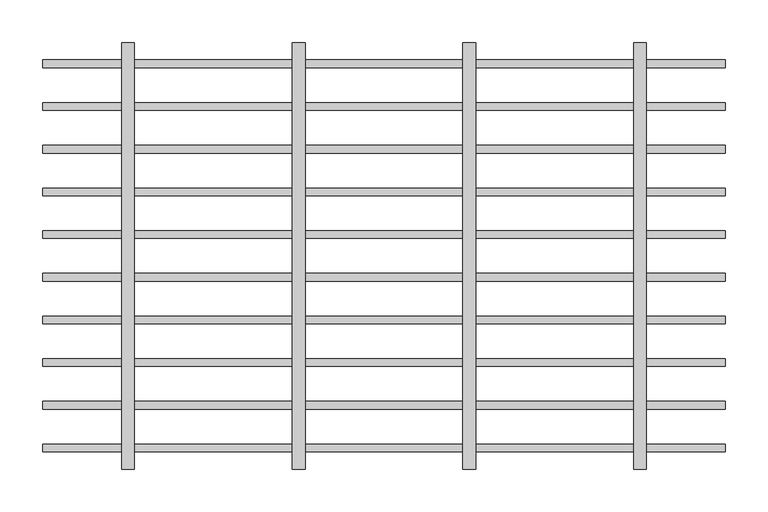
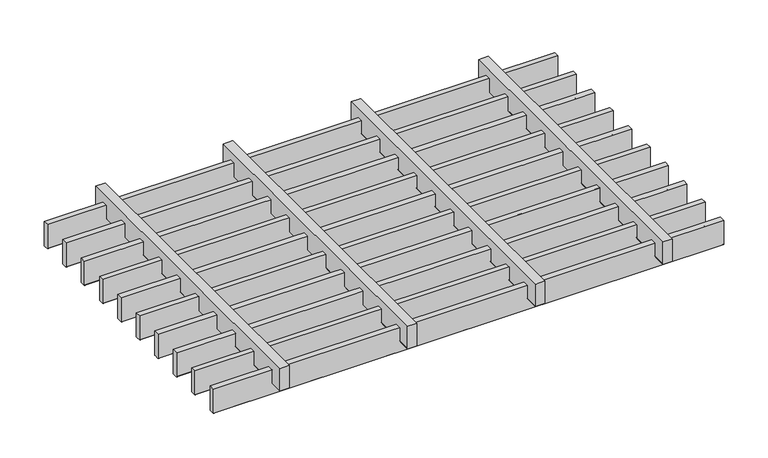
"""IFC4 building model written with IfcOpenShell, lengths in millimetres: proxy geometry, durlum_STARLAM_panel : durlum_STARLAM_9_corner_cut."""

from ifc_helpers import new_model, si_unit, point, frame, frame_2d, origin, place, context, project, spatial, polyline, circle_curve, trimmed, segment, composite_curve, outline, extrude, source, transform, mapped, element, save


def generic_models_8942baac(model_context):
    return source(origin(), model_context, "Body", "SweptSolid", [
        extrude(outline(composite_curve([segment(polyline([(-179.5, 40.0), (-170.5, 40.0), (-170.5, 0.5)]), True, "CONTINUOUS"), segment(trimmed(circle_curve(frame_2d((-171.0, 0.5)), 0.5), [point((-170.5, 0.5))], [point((-171.0, 0.0))], False, "CARTESIAN"), True, "CONTINUOUS"), segment(polyline([(-171.0, 0.0), (-179.0, 0.0)]), True, "CONTINUOUS"), segment(trimmed(circle_curve(frame_2d((-179.0, 0.5)), 0.5), [point((-179.0, 0.0))], [point((-179.5, 0.5))], False, "CARTESIAN"), True, "CONTINUOUS"), segment(polyline([(-179.5, 0.5), (-179.5, 40.0)]), True, "CONTINUOUS")], self_intersect=False)), frame((-399.875, 0.0, 0.0), z_axis=(1.0, 0.0, 0.0), x_axis=(0.0, 1.0, 0.0)), (0.0, 0.0, 1.0), 799.75),
        extrude(outline(composite_curve([segment(polyline([(-129.5, 40.0), (-120.5, 40.0), (-120.5, 0.5)]), True, "CONTINUOUS"), segment(trimmed(circle_curve(frame_2d((-121.0, 0.5)), 0.5), [point((-120.5, 0.5))], [point((-121.0, 0.0))], False, "CARTESIAN"), True, "CONTINUOUS"), segment(polyline([(-121.0, 0.0), (-129.0, 0.0)]), True, "CONTINUOUS"), segment(trimmed(circle_curve(frame_2d((-129.0, 0.5)), 0.5), [point((-129.0, 0.0))], [point((-129.5, 0.5))], False, "CARTESIAN"), True, "CONTINUOUS"), segment(polyline([(-129.5, 0.5), (-129.5, 40.0)]), True, "CONTINUOUS")], self_intersect=False)), frame((-399.875, 0.0, 0.0), z_axis=(1.0, 0.0, 0.0), x_axis=(0.0, 1.0, 0.0)), (0.0, 0.0, 1.0), 799.75),
        extrude(outline(composite_curve([segment(polyline([(54.0, 107.5), (54.0, 92.5), (17.5, 92.5)]), True, "CONTINUOUS"), segment(trimmed(circle_curve(frame_2d((17.5, 93.0)), 0.5), [point((17.5, 92.5))], [point((17.0, 93.0))], False, "CARTESIAN"), True, "CONTINUOUS"), segment(polyline([(17.0, 93.0), (17.0, 107.0)]), True, "CONTINUOUS"), segment(trimmed(circle_curve(frame_2d((17.5, 107.0)), 0.5), [point((17.0, 107.0))], [point((17.5, 107.5))], False, "CARTESIAN"), True, "CONTINUOUS"), segment(polyline([(17.5, 107.5), (54.0, 107.5)]), True, "CONTINUOUS")], self_intersect=False)), frame((0.0, -249.75, 0.0), z_axis=(0.0, 1.0, 0.0), x_axis=(0.0, 0.0, 1.0)), (0.0, 0.0, 1.0), 499.5),
        extrude(outline(composite_curve([segment(polyline([(54.0, -92.5), (54.0, -107.5), (17.5, -107.5)]), True, "CONTINUOUS"), segment(trimmed(circle_curve(frame_2d((17.5, -107.0)), 0.5), [point((17.5, -107.5))], [point((17.0, -107.0))], False, "CARTESIAN"), True, "CONTINUOUS"), segment(polyline([(17.0, -107.0), (17.0, -93.0)]), True, "CONTINUOUS"), segment(trimmed(circle_curve(frame_2d((17.5, -93.0)), 0.5), [point((17.0, -93.0))], [point((17.5, -92.5))], False, "CARTESIAN"), True, "CONTINUOUS"), segment(polyline([(17.5, -92.5), (54.0, -92.5)]), True, "CONTINUOUS")], self_intersect=False)), frame((0.0, -249.75, 0.0), z_axis=(0.0, 1.0, 0.0), x_axis=(0.0, 0.0, 1.0)), (0.0, 0.0, 1.0), 499.5),
        extrude(outline(composite_curve([segment(polyline([(-79.5, 40.0), (-70.5, 40.0), (-70.5, 0.5)]), True, "CONTINUOUS"), segment(trimmed(circle_curve(frame_2d((-71.0, 0.5)), 0.5), [point((-70.5, 0.5))], [point((-71.0, 0.0))], False, "CARTESIAN"), True, "CONTINUOUS"), segment(polyline([(-71.0, 0.0), (-79.0, 0.0)]), True, "CONTINUOUS"), segment(trimmed(circle_curve(frame_2d((-79.0, 0.5)), 0.5), [point((-79.0, 0.0))], [point((-79.5, 0.5))], False, "CARTESIAN"), True, "CONTINUOUS"), segment(polyline([(-79.5, 0.5), (-79.5, 40.0)]), True, "CONTINUOUS")], self_intersect=False)), frame((-399.875, 0.0, 0.0), z_axis=(1.0, 0.0, 0.0), x_axis=(0.0, 1.0, 0.0)), (0.0, 0.0, 1.0), 799.75),
        extrude(outline(composite_curve([segment(polyline([(-29.5, 40.0), (-20.5, 40.0), (-20.5, 0.5)]), True, "CONTINUOUS"), segment(trimmed(circle_curve(frame_2d((-21.0, 0.5)), 0.5), [point((-20.5, 0.5))], [point((-21.0, 0.0))], False, "CARTESIAN"), True, "CONTINUOUS"), segment(polyline([(-21.0, 0.0), (-29.0, 0.0)]), True, "CONTINUOUS"), segment(trimmed(circle_curve(frame_2d((-29.0, 0.5)), 0.5), [point((-29.0, 0.0))], [point((-29.5, 0.5))], False, "CARTESIAN"), True, "CONTINUOUS"), segment(polyline([(-29.5, 0.5), (-29.5, 40.0)]), True, "CONTINUOUS")], self_intersect=False)), frame((-399.875, 0.0, 0.0), z_axis=(1.0, 0.0, 0.0), x_axis=(0.0, 1.0, 0.0)), (0.0, 0.0, 1.0), 799.75),
        extrude(outline(composite_curve([segment(polyline([(20.5, 40.0), (29.5, 40.0), (29.5, 0.5)]), True, "CONTINUOUS"), segment(trimmed(circle_curve(frame_2d((29.0, 0.5)), 0.5), [point((29.5, 0.5))], [point((29.0, 0.0))], False, "CARTESIAN"), True, "CONTINUOUS"), segment(polyline([(29.0, 0.0), (21.0, 0.0)]), True, "CONTINUOUS"), segment(trimmed(circle_curve(frame_2d((21.0, 0.5)), 0.5), [point((21.0, 0.0))], [point((20.5, 0.5))], False, "CARTESIAN"), True, "CONTINUOUS"), segment(polyline([(20.5, 0.5), (20.5, 40.0)]), True, "CONTINUOUS")], self_intersect=False)), frame((-399.875, 0.0, 0.0), z_axis=(1.0, 0.0, 0.0), x_axis=(0.0, 1.0, 0.0)), (0.0, 0.0, 1.0), 799.75),
        extrude(outline(composite_curve([segment(polyline([(70.5, 40.0), (79.5, 40.0), (79.5, 0.5)]), True, "CONTINUOUS"), segment(trimmed(circle_curve(frame_2d((79.0, 0.5)), 0.5), [point((79.5, 0.5))], [point((79.0, 0.0))], False, "CARTESIAN"), True, "CONTINUOUS"), segment(polyline([(79.0, 0.0), (71.0, 0.0)]), True, "CONTINUOUS"), segment(trimmed(circle_curve(frame_2d((71.0, 0.5)), 0.5), [point((71.0, 0.0))], [point((70.5, 0.5))], False, "CARTESIAN"), True, "CONTINUOUS"), segment(polyline([(70.5, 0.5), (70.5, 40.0)]), True, "CONTINUOUS")], self_intersect=False)), frame((-399.875, 0.0, 0.0), z_axis=(1.0, 0.0, 0.0), x_axis=(0.0, 1.0, 0.0)), (0.0, 0.0, 1.0), 799.75),
        extrude(outline(composite_curve([segment(polyline([(120.5, 40.0), (129.5, 40.0), (129.5, 0.5)]), True, "CONTINUOUS"), segment(trimmed(circle_curve(frame_2d((129.0, 0.5)), 0.5), [point((129.5, 0.5))], [point((129.0, 0.0))], False, "CARTESIAN"), True, "CONTINUOUS"), segment(polyline([(129.0, 0.0), (121.0, 0.0)]), True, "CONTINUOUS"), segment(trimmed(circle_curve(frame_2d((121.0, 0.5)), 0.5), [point((121.0, 0.0))], [point((120.5, 0.5))], False, "CARTESIAN"), True, "CONTINUOUS"), segment(polyline([(120.5, 0.5), (120.5, 40.0)]), True, "CONTINUOUS")], self_intersect=False)), frame((-399.875, 0.0, 0.0), z_axis=(1.0, 0.0, 0.0), x_axis=(0.0, 1.0, 0.0)), (0.0, 0.0, 1.0), 799.75),
        extrude(outline(composite_curve([segment(polyline([(170.5, 40.0), (179.5, 40.0), (179.5, 0.5)]), True, "CONTINUOUS"), segment(trimmed(circle_curve(frame_2d((179.0, 0.5)), 0.5), [point((179.5, 0.5))], [point((179.0, 0.0))], False, "CARTESIAN"), True, "CONTINUOUS"), segment(polyline([(179.0, 0.0), (171.0, 0.0)]), True, "CONTINUOUS"), segment(trimmed(circle_curve(frame_2d((171.0, 0.5)), 0.5), [point((171.0, 0.0))], [point((170.5, 0.5))], False, "CARTESIAN"), True, "CONTINUOUS"), segment(polyline([(170.5, 0.5), (170.5, 40.0)]), True, "CONTINUOUS")], self_intersect=False)), frame((-399.875, 0.0, 0.0), z_axis=(1.0, 0.0, 0.0), x_axis=(0.0, 1.0, 0.0)), (0.0, 0.0, 1.0), 799.75),
        extrude(outline(composite_curve([segment(polyline([(54.0, 307.5), (54.0, 292.5), (17.5, 292.5)]), True, "CONTINUOUS"), segment(trimmed(circle_curve(frame_2d((17.5, 293.0)), 0.5), [point((17.5, 292.5))], [point((17.0, 293.0))], False, "CARTESIAN"), True, "CONTINUOUS"), segment(polyline([(17.0, 293.0), (17.0, 307.0)]), True, "CONTINUOUS"), segment(trimmed(circle_curve(frame_2d((17.5, 307.0)), 0.5), [point((17.0, 307.0))], [point((17.5, 307.5))], False, "CARTESIAN"), True, "CONTINUOUS"), segment(polyline([(17.5, 307.5), (54.0, 307.5)]), True, "CONTINUOUS")], self_intersect=False)), frame((0.0, -249.75, 0.0), z_axis=(0.0, 1.0, 0.0), x_axis=(0.0, 0.0, 1.0)), (0.0, 0.0, 1.0), 499.5),
        extrude(outline(composite_curve([segment(polyline([(54.0, -292.5), (54.0, -307.5), (17.5, -307.5)]), True, "CONTINUOUS"), segment(trimmed(circle_curve(frame_2d((17.5, -307.0)), 0.5), [point((17.5, -307.5))], [point((17.0, -307.0))], False, "CARTESIAN"), True, "CONTINUOUS"), segment(polyline([(17.0, -307.0), (17.0, -293.0)]), True, "CONTINUOUS"), segment(trimmed(circle_curve(frame_2d((17.5, -293.0)), 0.5), [point((17.0, -293.0))], [point((17.5, -292.5))], False, "CARTESIAN"), True, "CONTINUOUS"), segment(polyline([(17.5, -292.5), (54.0, -292.5)]), True, "CONTINUOUS")], self_intersect=False)), frame((0.0, -249.75, 0.0), z_axis=(0.0, 1.0, 0.0), x_axis=(0.0, 0.0, 1.0)), (0.0, 0.0, 1.0), 499.5),
        extrude(outline(composite_curve([segment(polyline([(-229.5, 40.0), (-220.5, 40.0), (-220.5, 0.5)]), True, "CONTINUOUS"), segment(trimmed(circle_curve(frame_2d((-221.0, 0.5)), 0.5), [point((-220.5, 0.5))], [point((-221.0, 0.0))], False, "CARTESIAN"), True, "CONTINUOUS"), segment(polyline([(-221.0, 0.0), (-229.0, 0.0)]), True, "CONTINUOUS"), segment(trimmed(circle_curve(frame_2d((-229.0, 0.5)), 0.5), [point((-229.0, 0.0))], [point((-229.5, 0.5))], False, "CARTESIAN"), True, "CONTINUOUS"), segment(polyline([(-229.5, 0.5), (-229.5, 40.0)]), True, "CONTINUOUS")], self_intersect=False)), frame((-399.875, 0.0, 0.0), z_axis=(1.0, 0.0, 0.0), x_axis=(0.0, 1.0, 0.0)), (0.0, 0.0, 1.0), 799.75),
        extrude(outline(composite_curve([segment(polyline([(220.5, 40.0), (229.5, 40.0), (229.5, 0.5)]), True, "CONTINUOUS"), segment(trimmed(circle_curve(frame_2d((229.0, 0.5)), 0.5), [point((229.5, 0.5))], [point((229.0, 0.0))], False, "CARTESIAN"), True, "CONTINUOUS"), segment(polyline([(229.0, 0.0), (221.0, 0.0)]), True, "CONTINUOUS"), segment(trimmed(circle_curve(frame_2d((221.0, 0.5)), 0.5), [point((221.0, 0.0))], [point((220.5, 0.5))], False, "CARTESIAN"), True, "CONTINUOUS"), segment(polyline([(220.5, 0.5), (220.5, 40.0)]), True, "CONTINUOUS")], self_intersect=False)), frame((-399.875, 0.0, 0.0), z_axis=(1.0, 0.0, 0.0), x_axis=(0.0, 1.0, 0.0)), (0.0, 0.0, 1.0), 799.75),
    ])


if __name__ == "__main__":
    model = new_model("IFC4")
    model_context = context("Model", 3, world=origin())
    ifc_project = project(units=[si_unit("LENGTHUNIT", "METRE", prefix="MILLI")], contexts=[model_context])
    site = spatial("IfcSite", under=ifc_project)
    building = spatial("IfcBuilding", under=site)
    placement = place(None, origin())
    generic_models_shape = generic_models_8942baac(model_context)
    element("IfcBuildingElementProxy", 1, Name="durlum_STARLAM_panel : durlum_STARLAM_9_corner_cut", ObjectType="durlum_STARLAM_panel : durlum_STARLAM_9_corner_cut", at=placement, inside=building, context=model_context, shape_type="MappedRepresentation", body=[
        mapped(generic_models_shape, transform((0.0, 0.0, 0.0), x_axis=(1.0, 0.0, 0.0), y_axis=(0.0, 1.0, 0.0), z_axis=(0.0, 0.0, 1.0))),
    ])
    save(model, "model.ifc")
